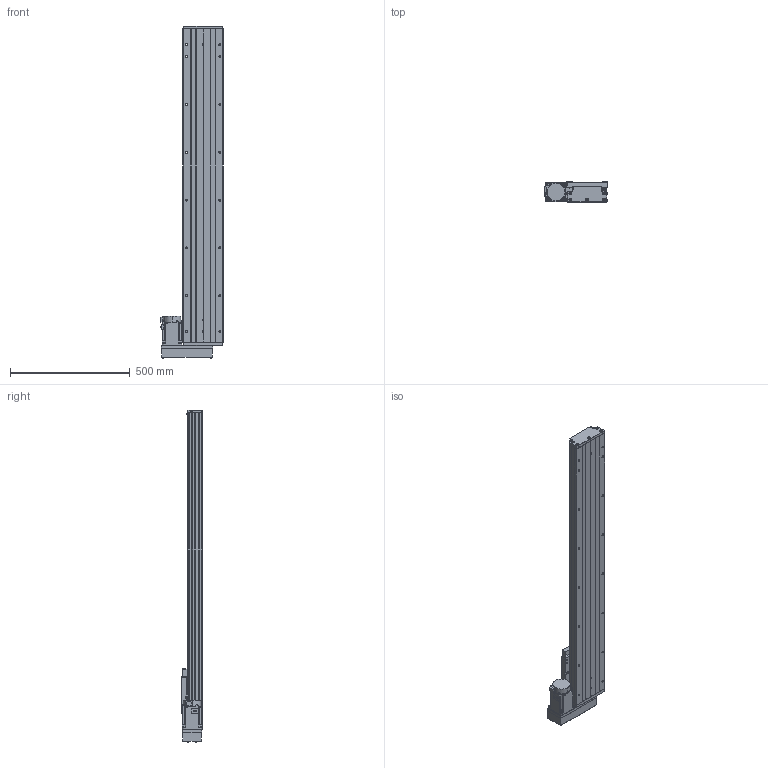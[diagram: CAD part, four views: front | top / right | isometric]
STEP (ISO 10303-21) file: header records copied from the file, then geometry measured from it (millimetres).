
FILE_DESCRIPTION (( 'STEP AP203' ), '1' );
FILE_NAME ('GTH17-1050-BL-M75-C4.step', '2023-06-30T11:58:51', ( '微软用户' ), ( '微软中国' ), 'SwSTEP 2.0', 'SolidWorks 2020', '' );
FILE_SCHEMA (( 'CONFIG_CONTROL_DESIGN' ));
Length unit declared in the file: millimetre
Products named in the file (19): GTH17-005; GBT 70.1-M6¡Á20_M6¡Á20; GTH17-033; GB1155-6X6; GTH17-031; GTH17-1050-BL-M75-C4; CTHA60-017; GBT 70.2-M3¡Á5_M3¡Á6; EE_SX911P_R; す晦芛蹟隊 M3℅5; GTH17-001_1050; CTHA60-016; HG-KN73J-S100; GTH17-002_GTH17-002; GBT 70.1-M3℅5; GBT 70.2-M4¡Á45_M4¡Á35; GTH17-004; GBT77-2000 M3×3; GTH17-015-2_CTHA86-015-2
Assembly tree (58 placements, depth 2):
  GTH17-1050-BL-M75-C4
    GTH17-001_1050
    GTH17-002_GTH17-002
    GTH17-004
    GTH17-005
    GB1155-6X6  x2
    CTHA60-017  x3
    EE_SX911P_R  x3
    CTHA60-016  x2
    GBT 70.1-M3℅5  x6
    GBT77-2000 M3×3  x6
    GBT 70.1-M6¡Á20_M6¡Á20  x10
    GTH17-031
    GBT 70.2-M3¡Á5_M3¡Á6  x8
    す晦芛蹟隊 M3℅5  x6
    HG-KN73J-S100
    GBT 70.2-M4¡Á45_M4¡Á35  x4
    GTH17-015-2_CTHA86-015-2
    GTH17-033
Bounding box: 264.3 x 87 x 1388.2 mm (x, y, z)
Volume: 11287556.4 mm3; surface area: 1504216.4 mm2
Topology: 61 solids, 61 shells, 2469 faces, 5893 edges, 3651 vertices
Faces by surface type: plane 1314, cylinder 682, cone 297, torus 124, sphere 32, bspline 20
Entity records: 45354 total; most frequent: CARTESIAN_POINT 10466, DIRECTION 6601, ORIENTED_EDGE 6498, EDGE_CURVE 3249, AXIS2_PLACEMENT_3D 2264, VECTOR 2073, LINE 2073, VERTEX_POINT 2063
